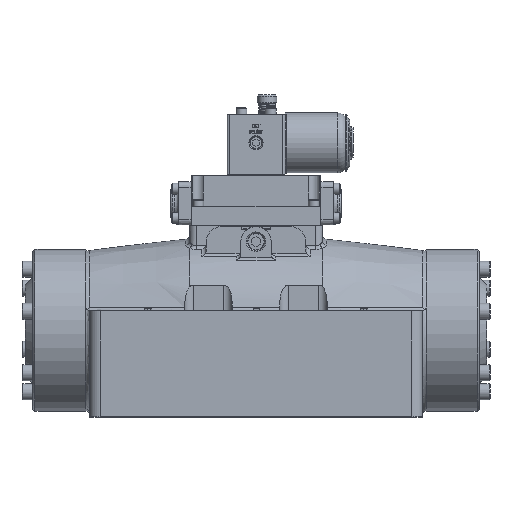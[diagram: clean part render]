
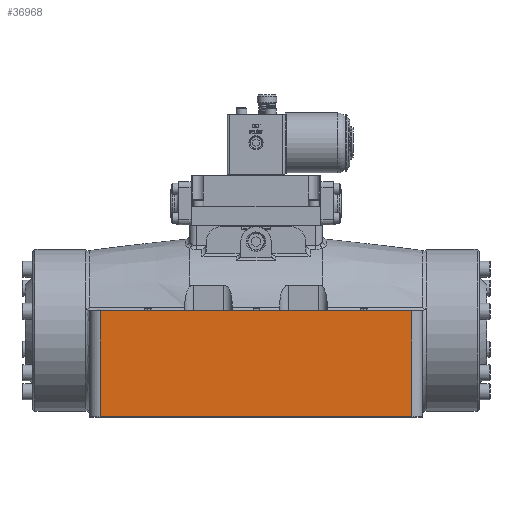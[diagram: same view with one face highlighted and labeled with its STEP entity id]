
A CAD part, top view. The second image highlights one B-rep face of the part: STEP entity #36968.
In plain terms, the highlighted planar face has unit normal (0, 0, 1).
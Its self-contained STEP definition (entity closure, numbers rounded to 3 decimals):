
#1613=LINE('',#58220,#3897);
#1633=LINE('',#58429,#3917);
#1634=LINE('',#58433,#3918);
#1635=LINE('',#58434,#3919);
#3897=VECTOR('',#45183,22.86);
#3917=VECTOR('',#45345,7.779);
#3918=VECTOR('',#45350,7.779);
#3919=VECTOR('',#45351,22.86);
#6822=PLANE('',#40008);
#9294=FACE_OUTER_BOUND('',#12074,.T.);
#12074=EDGE_LOOP('',(#26844,#26845,#26846,#26847));
#17118=VERTEX_POINT('',#58205);
#17125=VERTEX_POINT('',#58218);
#17187=VERTEX_POINT('',#58428);
#17188=VERTEX_POINT('',#58432);
#20907=EDGE_CURVE('',#17125,#17118,#1613,.T.);
#20975=EDGE_CURVE('',#17118,#17187,#1633,.T.);
#20977=EDGE_CURVE('',#17188,#17125,#1634,.T.);
#20978=EDGE_CURVE('',#17188,#17187,#1635,.T.);
#26844=ORIENTED_EDGE('',*,*,#20907,.F.);
#26845=ORIENTED_EDGE('',*,*,#20977,.F.);
#26846=ORIENTED_EDGE('',*,*,#20978,.T.);
#26847=ORIENTED_EDGE('',*,*,#20975,.F.);
#36968=ADVANCED_FACE('',(#9294),#6822,.T.);
#40008=AXIS2_PLACEMENT_3D('',#58431,#45348,#45349);
#45183=DIRECTION('',(-1.,0.,0.));
#45345=DIRECTION('',(0.,1.,0.));
#45348=DIRECTION('center_axis',(0.,0.,
1.));
#45349=DIRECTION('ref_axis',(1.,0.,0.));
#45350=DIRECTION('',(0.,-1.,0.));
#45351=DIRECTION('',(-1.,0.,0.));
#58205=CARTESIAN_POINT('',(-11.43,-6.35,8.573));
#58218=CARTESIAN_POINT('',(11.43,-6.35,8.573));
#58220=CARTESIAN_POINT('',(12.367,-6.35,8.573));
#58428=CARTESIAN_POINT('',(-11.43,1.429,8.573));
#58429=CARTESIAN_POINT('',(-11.43,-6.35,8.573));
#58431=CARTESIAN_POINT('Origin',(12.224,-6.35,8.573));
#58432=CARTESIAN_POINT('',(11.43,1.429,8.573));
#58433=CARTESIAN_POINT('',(11.43,-6.35,8.573));
#58434=CARTESIAN_POINT('',(-12.224,1.429,8.573));
